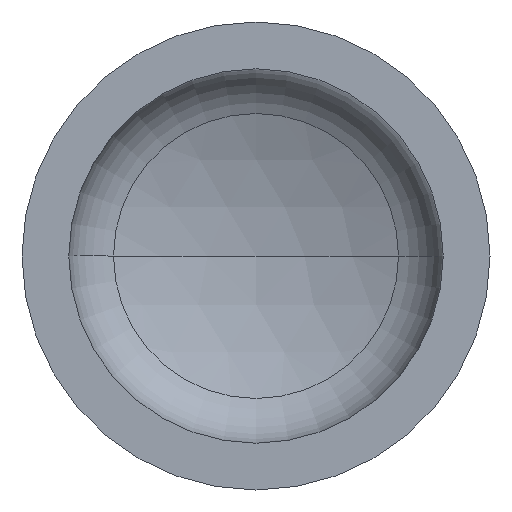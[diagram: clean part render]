
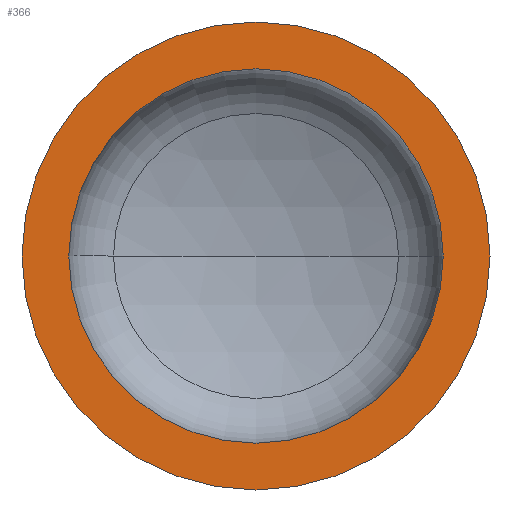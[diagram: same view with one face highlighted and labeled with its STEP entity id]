
A CAD part, front view. The second image highlights one B-rep face of the part: STEP entity #366.
In plain terms, the highlighted planar face has unit normal (0, -1, 0).
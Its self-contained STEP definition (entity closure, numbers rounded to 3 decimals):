
#1 = DIRECTION ( 'NONE',  ( 0., 1., 0. ) ) ;
#5 = ORIENTED_EDGE ( 'NONE', *, *, #99, .F. ) ;
#10 = DIRECTION ( 'NONE',  ( 1., 0., 0. ) ) ;
#21 = ORIENTED_EDGE ( 'NONE', *, *, #88, .T. ) ;
#34 = DIRECTION ( 'NONE',  ( 1., 0., 0. ) ) ;
#44 = DIRECTION ( 'NONE',  ( 0., -1., 0. ) ) ;
#45 = VERTEX_POINT ( 'NONE', #316 ) ;
#48 = DIRECTION ( 'NONE',  ( 0., -1., 0. ) ) ;
#57 = AXIS2_PLACEMENT_3D ( 'NONE', #297, #403, #247 ) ;
#60 = FACE_BOUND ( 'NONE', #337, .T. ) ;
#68 = AXIS2_PLACEMENT_3D ( 'NONE', #89, #48, #10 ) ;
#70 = AXIS2_PLACEMENT_3D ( 'NONE', #203, #44, #34 ) ;
#81 = AXIS2_PLACEMENT_3D ( 'NONE', #133, #321, #128 ) ;
#84 = EDGE_LOOP ( 'NONE', ( #21, #377 ) ) ;
#88 = EDGE_CURVE ( 'NONE', #382, #395, #365, .T. ) ;
#89 = CARTESIAN_POINT ( 'NONE',  ( 0., 0., 0. ) ) ;
#98 = EDGE_CURVE ( 'NONE', #395, #382, #359, .T. ) ;
#99 = EDGE_CURVE ( 'NONE', #45, #269, #348, .T. ) ;
#128 = DIRECTION ( 'NONE',  ( 1., 0., 0. ) ) ;
#133 = CARTESIAN_POINT ( 'NONE',  ( 0., 0., 0. ) ) ;
#190 = CARTESIAN_POINT ( 'NONE',  ( -480., 0., 0. ) ) ;
#201 = DIRECTION ( 'NONE',  ( -1., 0., 0. ) ) ;
#203 = CARTESIAN_POINT ( 'NONE',  ( 0., 0., 0. ) ) ;
#204 = PLANE ( 'NONE',  #206 ) ;
#206 = AXIS2_PLACEMENT_3D ( 'NONE', #246, #1, #201 ) ;
#230 = FACE_OUTER_BOUND ( 'NONE', #84, .T. ) ;
#232 = CARTESIAN_POINT ( 'NONE',  ( 600., 0., 0. ) ) ;
#246 = CARTESIAN_POINT ( 'NONE',  ( -600., 0., 0. ) ) ;
#247 = DIRECTION ( 'NONE',  ( 1., 0., 0. ) ) ;
#269 = VERTEX_POINT ( 'NONE', #190 ) ;
#297 = CARTESIAN_POINT ( 'NONE',  ( 0., 0., 0. ) ) ;
#311 = EDGE_CURVE ( 'NONE', #269, #45, #313, .T. ) ;
#313 = CIRCLE ( 'NONE', #57, 480. ) ;
#316 = CARTESIAN_POINT ( 'NONE',  ( 480., 0., 0. ) ) ;
#319 = ORIENTED_EDGE ( 'NONE', *, *, #311, .F. ) ;
#321 = DIRECTION ( 'NONE',  ( 0., -1., 0. ) ) ;
#337 = EDGE_LOOP ( 'NONE', ( #5, #319 ) ) ;
#348 = CIRCLE ( 'NONE', #68, 480. ) ;
#359 = CIRCLE ( 'NONE', #70, 600. ) ;
#365 = CIRCLE ( 'NONE', #81, 600. ) ;
#366 = ADVANCED_FACE ( 'NONE', ( #60, #230 ), #204, .F. ) ;
#377 = ORIENTED_EDGE ( 'NONE', *, *, #98, .T. ) ;
#382 = VERTEX_POINT ( 'NONE', #232 ) ;
#395 = VERTEX_POINT ( 'NONE', #411 ) ;
#403 = DIRECTION ( 'NONE',  ( 0., -1., 0. ) ) ;
#411 = CARTESIAN_POINT ( 'NONE',  ( -600., 0., 0. ) ) ;
